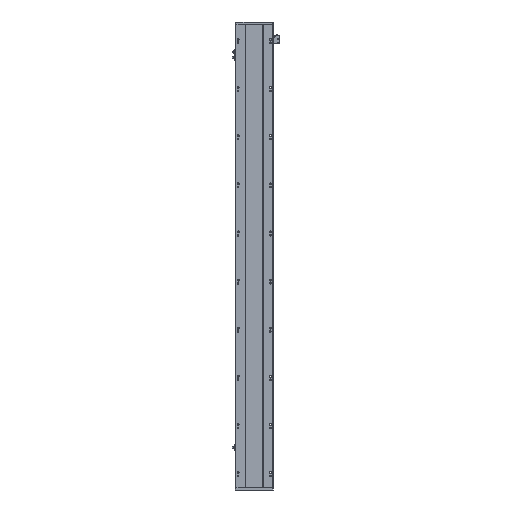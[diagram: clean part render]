
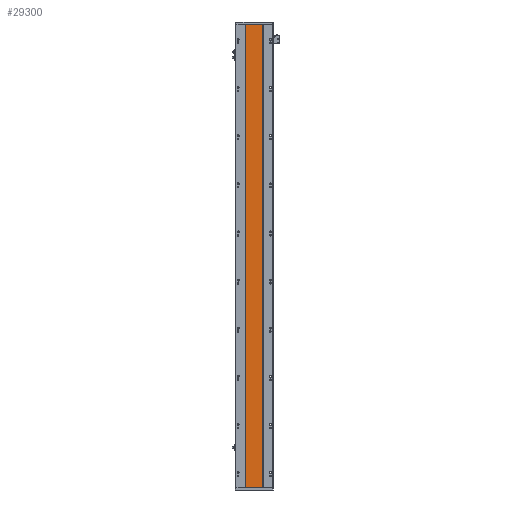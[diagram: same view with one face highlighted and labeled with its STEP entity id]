
A CAD part, front view. The second image highlights one B-rep face of the part: STEP entity #29300.
In plain terms, the highlighted planar face has unit normal (0, -1, 0).
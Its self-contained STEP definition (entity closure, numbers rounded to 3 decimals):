
#191 = VERTEX_POINT ( 'NONE', #39488 ) ;
#678 = ORIENTED_EDGE ( 'NONE', *, *, #34585, .T. ) ;
#1251 = CARTESIAN_POINT ( 'NONE',  ( 205.288, 16.9, 2080. ) ) ;
#1319 = EDGE_CURVE ( 'NONE', #38360, #13267, #25076, .T. ) ;
#1559 = FACE_OUTER_BOUND ( 'NONE', #31383, .T. ) ;
#2191 = LINE ( 'NONE', #1251, #16126 ) ;
#4957 = PLANE ( 'NONE',  #10217 ) ;
#6943 = EDGE_CURVE ( 'NONE', #191, #9072, #2191, .T. ) ;
#9072 = VERTEX_POINT ( 'NONE', #15494 ) ;
#9178 = LINE ( 'NONE', #21517, #24087 ) ;
#9329 = CARTESIAN_POINT ( 'NONE',  ( 129.288, 16.9, 2080. ) ) ;
#10217 = AXIS2_PLACEMENT_3D ( 'NONE', #10771, #38863, #13814 ) ;
#10626 = CARTESIAN_POINT ( 'NONE',  ( 129.288, 16.9, 2080. ) ) ;
#10771 = CARTESIAN_POINT ( 'NONE',  ( 205.288, 16.9, 2080. ) ) ;
#12550 = DIRECTION ( 'NONE',  ( 0., 0., -1. ) ) ;
#12600 = CARTESIAN_POINT ( 'NONE',  ( 205.288, 16.9, 0. ) ) ;
#12763 = ORIENTED_EDGE ( 'NONE', *, *, #22016, .F. ) ;
#13267 = VERTEX_POINT ( 'NONE', #25744 ) ;
#13555 = ORIENTED_EDGE ( 'NONE', *, *, #6943, .F. ) ;
#13814 = DIRECTION ( 'NONE',  ( -1., 0., 0. ) ) ;
#13897 = DIRECTION ( 'NONE',  ( 0., 0., -1. ) ) ;
#15494 = CARTESIAN_POINT ( 'NONE',  ( 205.288, 16.9, 0. ) ) ;
#16126 = VECTOR ( 'NONE', #13897, 1000. ) ;
#21517 = CARTESIAN_POINT ( 'NONE',  ( 129.288, 16.9, 2080. ) ) ;
#21649 = DIRECTION ( 'NONE',  ( 1., 0., 0. ) ) ;
#21877 = DIRECTION ( 'NONE',  ( 1., 0., 0. ) ) ;
#22016 = EDGE_CURVE ( 'NONE', #38360, #191, #9178, .T. ) ;
#24087 = VECTOR ( 'NONE', #21649, 1000. ) ;
#25076 = LINE ( 'NONE', #9329, #33239 ) ;
#25744 = CARTESIAN_POINT ( 'NONE',  ( 129.288, 16.9, 0. ) ) ;
#28862 = LINE ( 'NONE', #12600, #35607 ) ;
#29300 = ADVANCED_FACE ( 'NONE', ( #1559 ), #4957, .F. ) ;
#30112 = ORIENTED_EDGE ( 'NONE', *, *, #1319, .T. ) ;
#31383 = EDGE_LOOP ( 'NONE', ( #678, #13555, #12763, #30112 ) ) ;
#33239 = VECTOR ( 'NONE', #12550, 1000. ) ;
#34585 = EDGE_CURVE ( 'NONE', #13267, #9072, #28862, .T. ) ;
#35607 = VECTOR ( 'NONE', #21877, 1000. ) ;
#38360 = VERTEX_POINT ( 'NONE', #10626 ) ;
#38863 = DIRECTION ( 'NONE',  ( 0., 1., 0. ) ) ;
#39488 = CARTESIAN_POINT ( 'NONE',  ( 205.288, 16.9, 2080. ) ) ;
